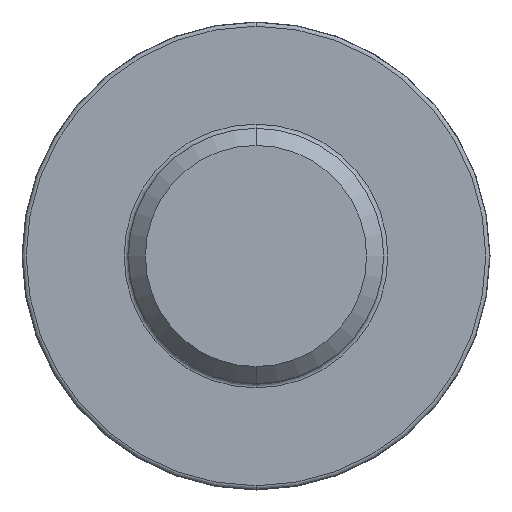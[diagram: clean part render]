
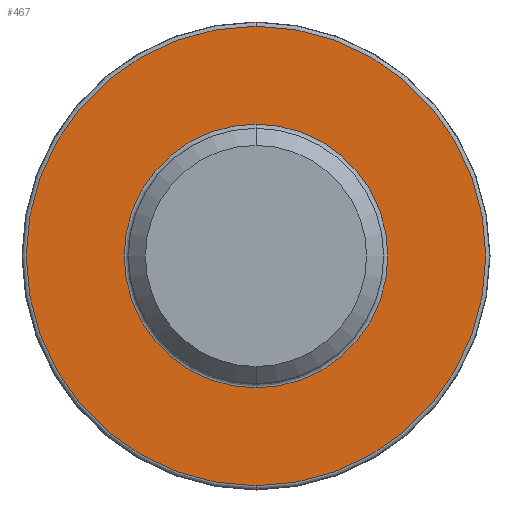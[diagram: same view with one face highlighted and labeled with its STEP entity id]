
A CAD part, front view. The second image highlights one B-rep face of the part: STEP entity #467.
In plain terms, the highlighted planar face has unit normal (0, -1, 0).
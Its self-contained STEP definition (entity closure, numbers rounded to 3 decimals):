
#18 = CIRCLE ( 'NONE', #838, 1.55 ) ;
#73 = CARTESIAN_POINT ( 'NONE',  ( 0., -1.6, 2.7 ) ) ;
#78 = CARTESIAN_POINT ( 'NONE',  ( 0., -1.6, -1.55 ) ) ;
#80 = DIRECTION ( 'NONE',  ( 0., 0., 1. ) ) ;
#106 = PLANE ( 'NONE',  #724 ) ;
#113 = CARTESIAN_POINT ( 'NONE',  ( 0., -1.6, 0. ) ) ;
#119 = EDGE_CURVE ( 'NONE', #670, #792, #18, .T. ) ;
#203 = VERTEX_POINT ( 'NONE', #528 ) ;
#221 = DIRECTION ( 'NONE',  ( 0., 1., 0. ) ) ;
#295 = ORIENTED_EDGE ( 'NONE', *, *, #342, .T. ) ;
#297 = DIRECTION ( 'NONE',  ( 0., 1., 0. ) ) ;
#342 = EDGE_CURVE ( 'NONE', #435, #203, #459, .T. ) ;
#355 = AXIS2_PLACEMENT_3D ( 'NONE', #411, #221, #559 ) ;
#381 = DIRECTION ( 'NONE',  ( 0., 0., 1. ) ) ;
#411 = CARTESIAN_POINT ( 'NONE',  ( 0., -1.6, 0. ) ) ;
#425 = CARTESIAN_POINT ( 'NONE',  ( 0., -1.6, 0. ) ) ;
#431 = CIRCLE ( 'NONE', #355, 1.55 ) ;
#435 = VERTEX_POINT ( 'NONE', #73 ) ;
#439 = DIRECTION ( 'NONE',  ( 0., 1., 0. ) ) ;
#442 = FACE_OUTER_BOUND ( 'NONE', #604, .T. ) ;
#451 = EDGE_CURVE ( 'NONE', #792, #670, #431, .T. ) ;
#459 = CIRCLE ( 'NONE', #614, 2.7 ) ;
#467 = ADVANCED_FACE ( 'NONE', ( #845, #442 ), #106, .F. ) ;
#512 = EDGE_LOOP ( 'NONE', ( #813, #872 ) ) ;
#524 = CARTESIAN_POINT ( 'NONE',  ( 0., -1.6, 1.55 ) ) ;
#528 = CARTESIAN_POINT ( 'NONE',  ( 0., -1.6, -2.7 ) ) ;
#554 = ORIENTED_EDGE ( 'NONE', *, *, #669, .T. ) ;
#559 = DIRECTION ( 'NONE',  ( 0., 0., 1. ) ) ;
#572 = DIRECTION ( 'NONE',  ( 0., 0., 1. ) ) ;
#604 = EDGE_LOOP ( 'NONE', ( #295, #554 ) ) ;
#614 = AXIS2_PLACEMENT_3D ( 'NONE', #425, #681, #80 ) ;
#633 = AXIS2_PLACEMENT_3D ( 'NONE', #659, #720, #381 ) ;
#659 = CARTESIAN_POINT ( 'NONE',  ( 0., -1.6, 0. ) ) ;
#669 = EDGE_CURVE ( 'NONE', #203, #435, #862, .T. ) ;
#670 = VERTEX_POINT ( 'NONE', #524 ) ;
#681 = DIRECTION ( 'NONE',  ( 0., -1., 0. ) ) ;
#720 = DIRECTION ( 'NONE',  ( 0., -1., 0. ) ) ;
#724 = AXIS2_PLACEMENT_3D ( 'NONE', #784, #297, #572 ) ;
#774 = DIRECTION ( 'NONE',  ( 0., 0., 1. ) ) ;
#784 = CARTESIAN_POINT ( 'NONE',  ( 1.5, -1.6, 0. ) ) ;
#792 = VERTEX_POINT ( 'NONE', #78 ) ;
#813 = ORIENTED_EDGE ( 'NONE', *, *, #119, .T. ) ;
#838 = AXIS2_PLACEMENT_3D ( 'NONE', #113, #439, #774 ) ;
#845 = FACE_BOUND ( 'NONE', #512, .T. ) ;
#862 = CIRCLE ( 'NONE', #633, 2.7 ) ;
#872 = ORIENTED_EDGE ( 'NONE', *, *, #451, .T. ) ;
